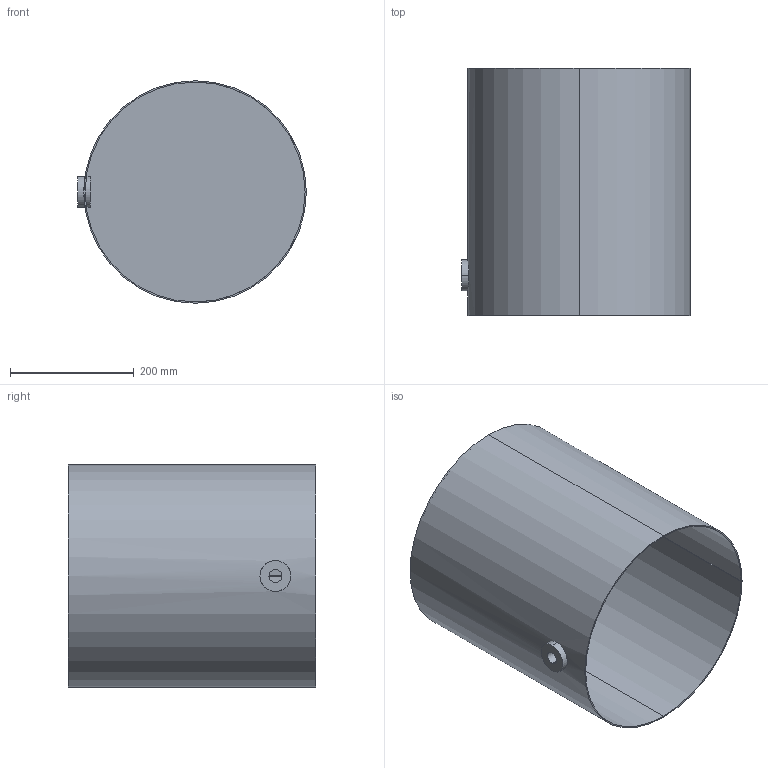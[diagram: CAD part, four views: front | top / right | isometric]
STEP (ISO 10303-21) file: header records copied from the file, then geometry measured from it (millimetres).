
FILE_DESCRIPTION (( 'STEP AP203' ), '1' );
FILE_NAME ('Collecteur modifié.STEP', '2019-02-25T14:25:13', ( '' ), ( '' ), 'SwSTEP 2.0', 'SolidWorks 2019', '' );
FILE_SCHEMA (( 'CONFIG_CONTROL_DESIGN' ));
Length unit declared in the file: millimetre
Products named in the file (4): Fond; Piquage taraudé; Virole; Collecteur modifié
Assembly tree (3 placements, depth 2):
  Collecteur modifié
    Virole
    Piquage taraudé
    Fond
Bounding box: 370 x 400 x 360 mm (x, y, z)
Volume: 1126435.1 mm3; surface area: 1110433.4 mm2
Topology: 3 solids, 3 shells, 22 faces, 48 edges, 32 vertices
Faces by surface type: cylinder 14, plane 8
Entity records: 1270 total; most frequent: CARTESIAN_POINT 348, DIRECTION 124, ORIENTED_EDGE 96, AXIS2_PLACEMENT_3D 52, EDGE_CURVE 48, PERSON_AND_ORGANIZATION 35, VERTEX_POINT 32, CALENDAR_DATE 26
